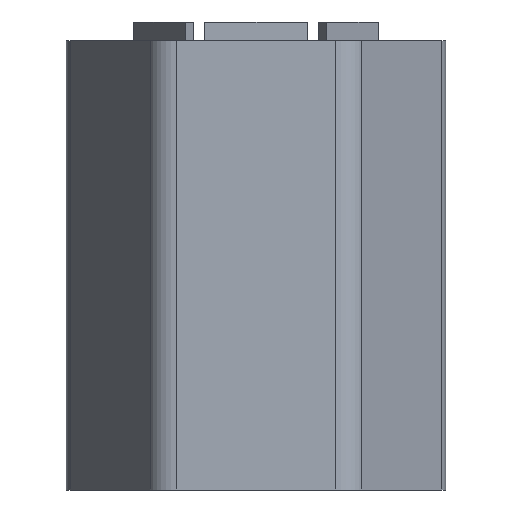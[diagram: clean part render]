
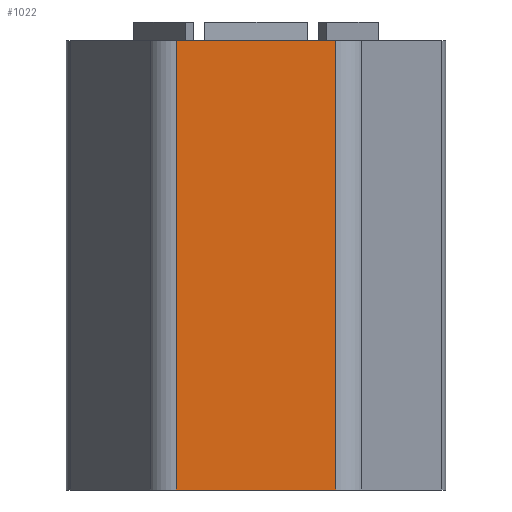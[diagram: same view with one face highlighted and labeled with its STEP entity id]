
A CAD part, left-side view. The second image highlights one B-rep face of the part: STEP entity #1022.
In plain terms, the highlighted planar face has unit normal (-1, 0, 0).
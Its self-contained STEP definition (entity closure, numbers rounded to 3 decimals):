
#40=LINE('',#1531,#169);
#82=LINE('',#1631,#211);
#96=LINE('',#1659,#225);
#98=LINE('',#1662,#227);
#169=VECTOR('',#1163,10.);
#211=VECTOR('',#1231,10.);
#225=VECTOR('',#1259,10.);
#227=VECTOR('',#1263,10.);
#300=PLANE('',#1104);
#356=FACE_OUTER_BOUND('',#415,.T.);
#415=EDGE_LOOP('',(#820,#821,#822,#823));
#481=VERTEX_POINT('',#1528);
#482=VERTEX_POINT('',#1530);
#526=VERTEX_POINT('',#1628);
#527=VERTEX_POINT('',#1630);
#576=EDGE_CURVE('',#481,#482,#40,.T.);
#627=EDGE_CURVE('',#526,#527,#82,.T.);
#642=EDGE_CURVE('',#482,#526,#96,.T.);
#644=EDGE_CURVE('',#527,#481,#98,.T.);
#820=ORIENTED_EDGE('',*,*,#642,.F.);
#821=ORIENTED_EDGE('',*,*,#576,.F.);
#822=ORIENTED_EDGE('',*,*,#644,.F.);
#823=ORIENTED_EDGE('',*,*,#627,.F.);
#1022=ADVANCED_FACE('',(#356),#300,.T.);
#1104=AXIS2_PLACEMENT_3D('',#1661,#1261,#1262);
#1163=DIRECTION('',(0.,-1.,0.));
#1231=DIRECTION('',(0.,1.,0.));
#1259=DIRECTION('',(0.,0.,-1.));
#1261=DIRECTION('center_axis',(-1.,0.,0.));
#1262=DIRECTION('ref_axis',(0.,-1.,0.));
#1263=DIRECTION('',(0.,0.,1.));
#1528=CARTESIAN_POINT('',(-22.5,10.681,57.));
#1530=CARTESIAN_POINT('',(-22.5,-10.681,57.));
#1531=CARTESIAN_POINT('',(-22.5,12.99,57.));
#1628=CARTESIAN_POINT('',(-22.5,-10.681,-3.));
#1630=CARTESIAN_POINT('',(-22.5,10.681,-3.));
#1631=CARTESIAN_POINT('',(-22.5,12.99,-3.));
#1659=CARTESIAN_POINT('',(-22.5,-10.681,0.));
#1661=CARTESIAN_POINT('Origin',(-22.5,12.99,0.));
#1662=CARTESIAN_POINT('',(-22.5,10.681,0.));
